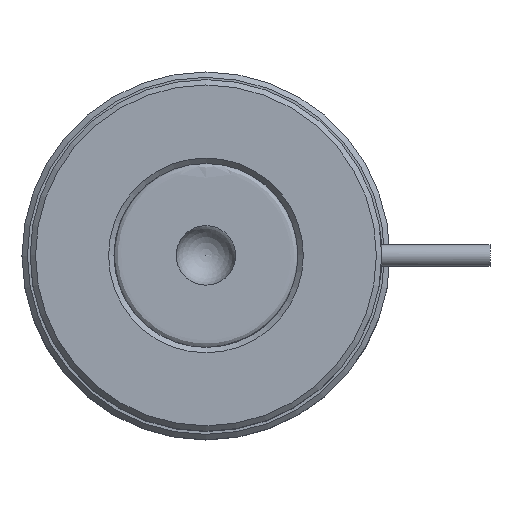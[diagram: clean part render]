
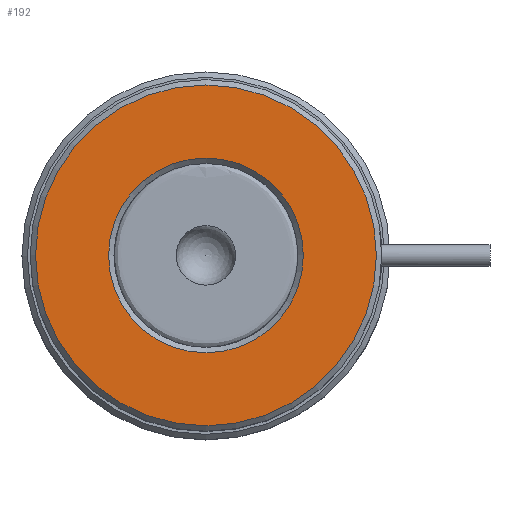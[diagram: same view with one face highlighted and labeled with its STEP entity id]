
A CAD part, top view. The second image highlights one B-rep face of the part: STEP entity #192.
In plain terms, the highlighted planar face has unit normal (0, 0, 1).
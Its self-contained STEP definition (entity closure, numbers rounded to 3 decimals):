
#192=ADVANCED_FACE('',(#464,#465),#466,.T.);
#464=FACE_OUTER_BOUND('',#831,.T.);
#465=FACE_BOUND('',#832,.T.);
#466=PLANE('',#833);
#831=EDGE_LOOP('',(#1328));
#832=EDGE_LOOP('',(#1329));
#833=AXIS2_PLACEMENT_3D('',#1330,#1331,#1332);
#1328=ORIENTED_EDGE('',*,*,#1754,.T.);
#1329=ORIENTED_EDGE('',*,*,#1755,.T.);
#1330=CARTESIAN_POINT('',(0.0,0.0,50.));
#1331=DIRECTION('',(0.0,0.0,1.0));
#1332=DIRECTION('',(1.0,0.0,-0.0));
#1754=EDGE_CURVE('',#1968,#1968,#1969,.T.);
#1755=EDGE_CURVE('',#1970,#1970,#1971,.F.);
#1968=VERTEX_POINT('',#2354);
#1969=CIRCLE('',#2355,31.5);
#1970=VERTEX_POINT('',#2356);
#1971=CIRCLE('',#2357,18.0);
#2354=CARTESIAN_POINT('',(31.5,0.0,50.));
#2355=AXIS2_PLACEMENT_3D('',#2660,#2661,#2662);
#2356=CARTESIAN_POINT('',(18.0,0.,50.));
#2357=AXIS2_PLACEMENT_3D('',#2663,#2664,#2665);
#2660=CARTESIAN_POINT('',(0.0,0.0,50.));
#2661=DIRECTION('',(0.0,0.0,1.0));
#2662=DIRECTION('',(1.0,0.0,-0.0));
#2663=CARTESIAN_POINT('',(0.0,0.0,50.));
#2664=DIRECTION('',(0.0,0.0,1.0));
#2665=DIRECTION('',(1.0,0.0,-0.0));
